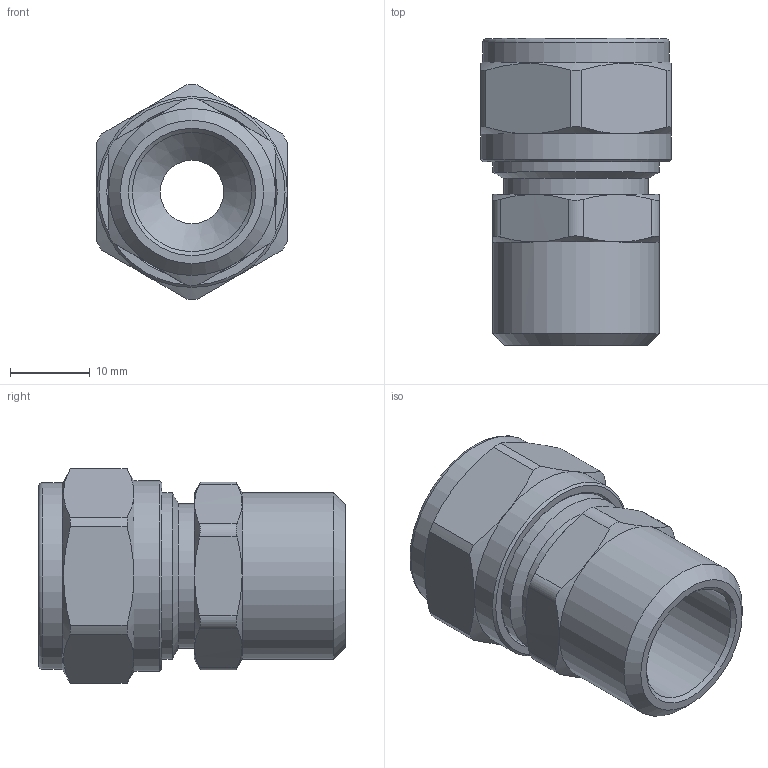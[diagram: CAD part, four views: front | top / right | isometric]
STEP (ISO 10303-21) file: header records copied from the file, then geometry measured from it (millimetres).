
FILE_DESCRIPTION(('STEP AP203'), '1');
FILE_NAME('VTm.301.N.001604', '', ('UNSPECIFIED'), ('UNSPECIFIED'), 'C3D Converter', 'C3D Toolkit', '');
FILE_SCHEMA(('CONFIG_CONTROL_DESIGN'));
Length unit declared in the file: millimetre
Products named in the file (1): ВР.302634.049.000 СБ
Bounding box: 24 x 38.61 x 27 mm (x, y, z)
Volume: 9218.8 mm3; surface area: 7734.9 mm2
Topology: 2 solids, 2 shells, 304 faces, 802 edges, 523 vertices
Faces by surface type: extrusion 111, plane 96, cylinder 37, cone 33, torus 27
Full cylindrical faces by diameter (mm): 8 x1, 11.8 x4, 12.4 x1, 15 x1, 16.2 x1, 16.7 x1, 18.2 x1, 18.632 x1, 20.955 x1, 21 x1, 23.5 x1, 24 x1
Entity records: 11399 total; most frequent: CARTESIAN_POINT 4567, ORIENTED_EDGE 1526, DIRECTION 1041, EDGE_CURVE 763, VERTEX_POINT 523, B_SPLINE_CURVE_WITH_KNOTS 428, VECTOR 421, EDGE_LOOP 366
